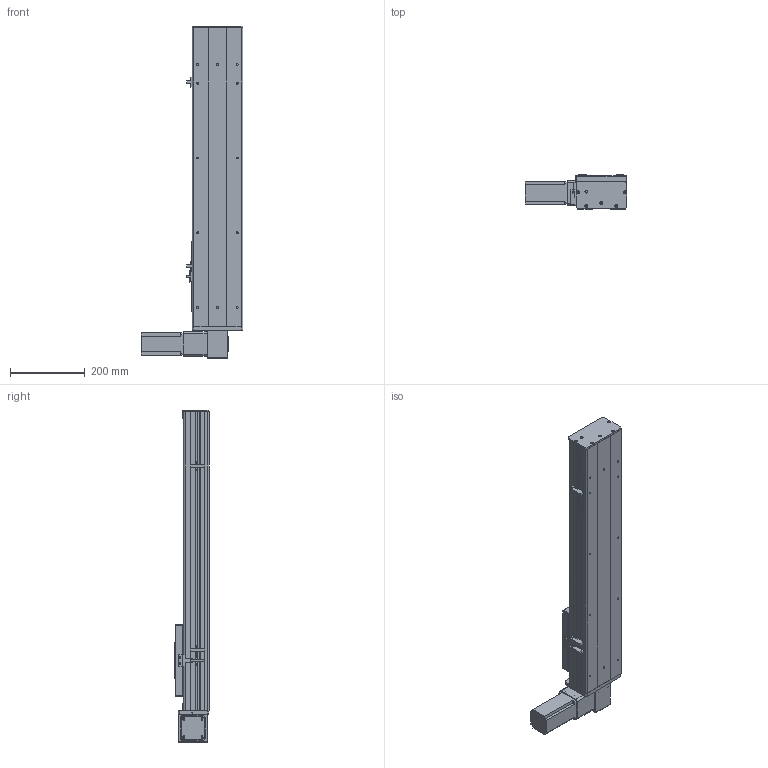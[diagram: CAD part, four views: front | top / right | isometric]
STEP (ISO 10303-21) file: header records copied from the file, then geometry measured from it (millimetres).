
FILE_DESCRIPTION (( 'STEP AP203' ), '1' );
FILE_NAME ('Y135CB-D90-S500-BD-P400W.STEP', '2020-02-19T02:56:57', ( '微软用户' ), ( '微软中国' ), 'SwSTEP 2.0', 'SolidWorks 2017', '' );
FILE_SCHEMA (( 'CONFIG_CONTROL_DESIGN' ));
Length unit declared in the file: millimetre
Products named in the file (16): 5C--俋欶; san松下电机400不带刹车----; C-雄赽釱--; 5CB --掛极耜裔啣-; Y10B--々湍喘謫眊--666; C-詩湍揤踡え-陔; 0B-薊粣ん眊; Y135CB-D90-S500-BD-P400W; 135CB--詩湍-CE; Y135CB-耜裔; 135CB---遴掛极.-; 35CB---喘謫眊楊擘啣; Y100-135俋离換覜ん--; 0B-埴倛裔啣; Y135C-陔俋离換覜結え-; 0B-源倛裔啣
Assembly tree (19 placements, depth 2):
  Y135CB-D90-S500-BD-P400W
    Y135CB-耜裔
    135CB---遴掛极.-
    35CB---喘謫眊楊擘啣
    0B-埴倛裔啣
    0B-源倛裔啣
    san松下电机400不带刹车----
    5CB --掛极耜裔啣-  x2
    C-詩湍揤踡え-陔  x2
    135CB--詩湍-CE
    Y100-135俋离換覜ん--  x3
    Y135C-陔俋离換覜結え-
    5C--俋欶
    C-雄赽釱--
    Y10B--々湍喘謫眊--666
    0B-薊粣ん眊
Bounding box: 272 x 91 x 888 mm (x, y, z)
Volume: 3088222.9 mm3; surface area: 1151288.1 mm2
Topology: 19 solids, 19 shells, 847 faces, 2230 edges, 1476 vertices
Faces by surface type: cylinder 416, plane 415, cone 16
Entity records: 25602 total; most frequent: DIRECTION 4266, CARTESIAN_POINT 4159, ORIENTED_EDGE 3936, EDGE_CURVE 1968, AXIS2_PLACEMENT_3D 1559, VERTEX_POINT 1304, VECTOR 1148, LINE 1148
